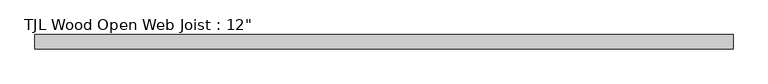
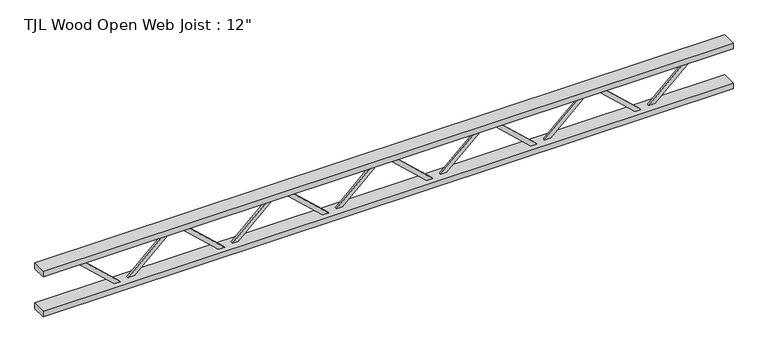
"""IFC4 building model written with IfcOpenShell, lengths in millimetres: beam geometry."""

from ifc_helpers import new_model, si_unit, frame, origin, place, context, project, spatial, polyline, outline, extrude, source, transform, mapped, element, save


def beam_31dd2b7c(model_context):
    return source(origin(), model_context, "Body", "SweptSolid", [
        extrude(outline(polyline([(119.0625, 1295.4), (144.4625, 1295.4), (144.4625, 1277.7378848), (-119.0625, 991.9878848), (-119.0625, 946.15), (-144.4625, 946.15), (-144.4625, 1001.9121152), (119.0625, 1287.6621152), (119.0625, 1295.4)])), frame((0.0, 0.0, 0.0), z_axis=(0.0, 1.0, 0.0), x_axis=(0.0, 0.0, 1.0)), (0.0, 0.0, 1.0), 12.7),
        extrude(outline(polyline([(144.4625, 647.7), (119.0625, 647.7), (119.0625, 655.4378848), (-144.4625, 941.1878848), (-144.4625, 996.95), (-119.0625, 996.95), (-119.0625, 951.1121152), (144.4625, 665.3621152), (144.4625, 647.7)])), frame((0.0, -12.7, 0.0), z_axis=(0.0, 1.0, 0.0), x_axis=(0.0, 0.0, 1.0)), (0.0, 0.0, 1.0), 12.7),
        extrude(outline(polyline([(119.0625, 647.7), (144.4625, 647.7), (144.4625, 630.0378848), (-119.0625, 344.2878848), (-119.0625, 298.45), (-144.4625, 298.45), (-144.4625, 354.2121152), (119.0625, 639.9621152), (119.0625, 647.7)])), frame((0.0, 0.0, 0.0), z_axis=(0.0, 1.0, 0.0), x_axis=(0.0, 0.0, 1.0)), (0.0, 0.0, 1.0), 12.7),
        extrude(outline(polyline([(144.4625, 0.0), (119.0625, 0.0), (119.0625, 7.7378848), (-144.4625, 293.4878848), (-144.4625, 349.25), (-119.0625, 349.25), (-119.0625, 303.4121152), (144.4625, 17.6621152), (144.4625, 0.0)])), frame((0.0, -12.7, 0.0), z_axis=(0.0, 1.0, 0.0), x_axis=(0.0, 0.0, 1.0)), (0.0, 0.0, 1.0), 12.7),
        extrude(outline(polyline([(119.0625, 0.0), (144.4625, 0.0), (144.4625, -17.6621152), (-119.0625, -303.4121152), (-119.0625, -349.25), (-144.4625, -349.25), (-144.4625, -293.4878848), (119.0625, -7.7378848), (119.0625, 0.0)])), frame((0.0, 0.0, 0.0), z_axis=(0.0, 1.0, 0.0), x_axis=(0.0, 0.0, 1.0)), (0.0, 0.0, 1.0), 12.7),
        extrude(outline(polyline([(144.4625, -647.7), (119.0625, -647.7), (119.0625, -639.9621152), (-144.4625, -354.2121152), (-144.4625, -298.45), (-119.0625, -298.45), (-119.0625, -344.2878848), (144.4625, -630.0378848), (144.4625, -647.7)])), frame((0.0, -12.7, 0.0), z_axis=(0.0, 1.0, 0.0), x_axis=(0.0, 0.0, 1.0)), (0.0, 0.0, 1.0), 12.7),
        extrude(outline(polyline([(119.0625, -647.7), (144.4625, -647.7), (144.4625, -665.3621152), (-119.0625, -951.1121152), (-119.0625, -996.95), (-144.4625, -996.95), (-144.4625, -941.1878848), (119.0625, -655.4378848), (119.0625, -647.7)])), frame((0.0, 0.0, 0.0), z_axis=(0.0, 1.0, 0.0), x_axis=(0.0, 0.0, 1.0)), (0.0, 0.0, 1.0), 12.7),
        extrude(outline(polyline([(144.4625, -1295.4), (119.0625, -1295.4), (119.0625, -1287.6621152), (-144.4625, -1001.9121152), (-144.4625, -946.15), (-119.0625, -946.15), (-119.0625, -991.9878848), (144.4625, -1277.7378848), (144.4625, -1295.4)])), frame((0.0, -12.7, 0.0), z_axis=(0.0, 1.0, 0.0), x_axis=(0.0, 0.0, 1.0)), (0.0, 0.0, 1.0), 12.7),
        extrude(outline(polyline([(119.0625, 1943.1), (144.4625, 1943.1), (144.4625, 1925.4378848), (-119.0625, 1639.6878848), (-119.0625, 1593.85), (-144.4625, 1593.85), (-144.4625, 1649.6121152), (119.0625, 1935.3621152), (119.0625, 1943.1)])), frame((0.0, 0.0, 0.0), z_axis=(0.0, 1.0, 0.0), x_axis=(0.0, 0.0, 1.0)), (0.0, 0.0, 1.0), 12.7),
        extrude(outline(polyline([(144.4625, 1295.4), (119.0625, 1295.4), (119.0625, 1303.1378848), (-144.4625, 1588.8878848), (-144.4625, 1644.65), (-119.0625, 1644.65), (-119.0625, 1598.8121152), (144.4625, 1313.0621152), (144.4625, 1295.4)])), frame((0.0, -12.7, 0.0), z_axis=(0.0, 1.0, 0.0), x_axis=(0.0, 0.0, 1.0)), (0.0, 0.0, 1.0), 12.7),
        extrude(outline(polyline([(119.0625, -1295.4), (144.4625, -1295.4), (144.4625, -1313.0621152), (-119.0625, -1598.8121152), (-119.0625, -1644.65), (-144.4625, -1644.65), (-144.4625, -1588.8878848), (119.0625, -1303.1378848), (119.0625, -1295.4)])), frame((0.0, 0.0, 0.0), z_axis=(0.0, 1.0, 0.0), x_axis=(0.0, 0.0, 1.0)), (0.0, 0.0, 1.0), 12.7),
        extrude(outline(polyline([(144.4625, -1943.1), (119.0625, -1943.1), (119.0625, -1935.3621152), (-144.4625, -1649.6121152), (-144.4625, -1593.85), (-119.0625, -1593.85), (-119.0625, -1639.6878848), (144.4625, -1925.4378848), (144.4625, -1943.1)])), frame((0.0, -12.7, 0.0), z_axis=(0.0, 1.0, 0.0), x_axis=(0.0, 0.0, 1.0)), (0.0, 0.0, 1.0), 12.7),
        extrude(outline(polyline([(2146.3, 44.45), (2146.3, -44.45), (-2146.3, -44.45), (-2146.3, 44.45), (2146.3, 44.45)])), frame((0.0, 0.0, 112.7125), z_axis=(0.0, 0.0, 1.0), x_axis=(1.0, 0.0, 0.0)), (0.0, 0.0, 1.0), 38.1),
        extrude(outline(polyline([(2146.3, 44.45), (2146.3, -44.45), (-2146.3, -44.45), (-2146.3, 44.45), (2146.3, 44.45)])), frame((0.0, 0.0, -150.8125), z_axis=(0.0, 0.0, 1.0), x_axis=(1.0, 0.0, 0.0)), (0.0, 0.0, 1.0), 38.1),
    ])


if __name__ == "__main__":
    model = new_model("IFC4")
    model_context = context("Model", 3, world=origin())
    ifc_project = project(units=[si_unit("LENGTHUNIT", "METRE", prefix="MILLI")], contexts=[model_context])
    site = spatial("IfcSite", under=ifc_project)
    building = spatial("IfcBuilding", under=site)
    placement = place(None, origin())
    beam_shape = beam_31dd2b7c(model_context)
    element("IfcBeam", 1, ObjectType="TJL Wood Open Web Joist : 12\"", at=placement, inside=building, context=model_context, shape_type="MappedRepresentation", body=[
        mapped(beam_shape, transform((0.0, 0.0, 0.0), x_axis=(1.0, 0.0, 0.0), y_axis=(0.0, 1.0, 0.0), z_axis=(0.0, 0.0, 1.0))),
    ])
    save(model, "model.ifc")
